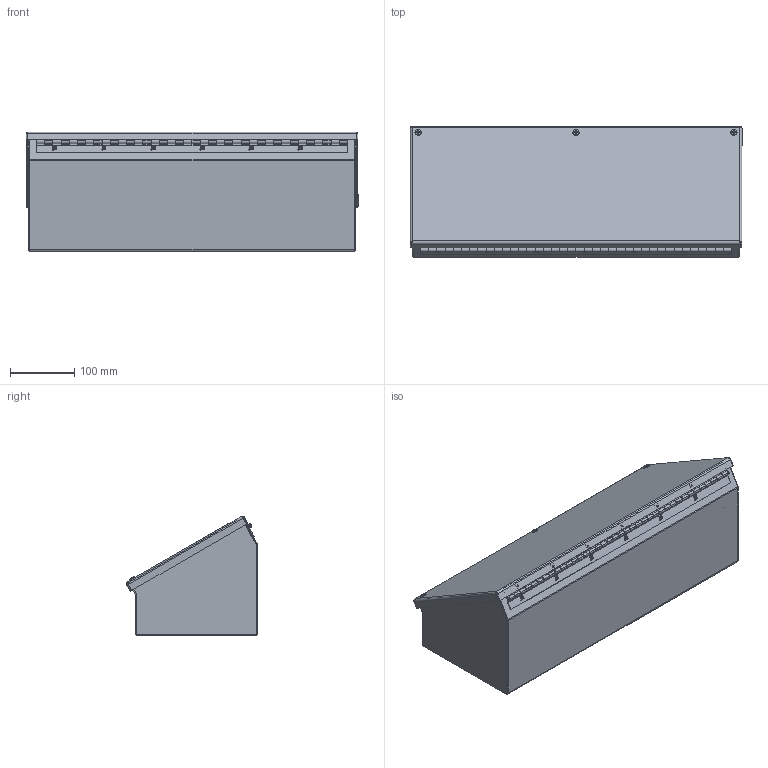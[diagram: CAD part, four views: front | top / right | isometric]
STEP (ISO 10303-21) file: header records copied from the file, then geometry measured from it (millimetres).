
FILE_DESCRIPTION (( 'STEP AP203' ), '1' );
FILE_NAME ('c8c20ss.STEP', '2013-05-13T15:05:54', ( 'User' ), ( 'Pentair Inc' ), 'SwSTEP 2.0', 'SolidWorks 2010', '' );
FILE_SCHEMA (( 'CONFIG_CONTROL_DESIGN' ));
Length unit declared in the file: inch
Products named in the file (17): c8c20ss; 89068939_CLOSED; 58308027; 58324009; 58324010; 89069084_CLOSED; 87540308; 99404181; 50103007_CLOSE; 89061656; 89061657; 89061671; 58110009; 31194001_as installed; 87789566_DEFAULT; 26132019_26132002; 58333103_PER MODEL
Assembly tree (22 placements, depth 5):
  c8c20ss
    26132019_26132002  x3
    87789566_DEFAULT  x3
    89068939_CLOSED
      58308027
      58324009
      31194001_as installed
      58110009  x3
      58324010
      89069084_CLOSED
        87540308
        50103007_CLOSE
          89061657
          89061656
          89061671
        99404181
    58333103_PER MODEL
Bounding box: 515.49 x 202.96 x 186.08 mm (x, y, z)
Volume: 887316.2 mm3; surface area: 952060.3 mm2
Topology: 20 solids, 20 shells, 1367 faces, 3637 edges, 2354 vertices
Faces by surface type: plane 673, bspline 416, cylinder 218, cone 34, torus 14, sphere 12
Entity records: 56426 total; most frequent: CARTESIAN_POINT 25616, ORIENTED_EDGE 6730, DIRECTION 4647, EDGE_CURVE 3365, VERTEX_POINT 2192, VECTOR 2113, LINE 2113, EDGE_LOOP 1313
